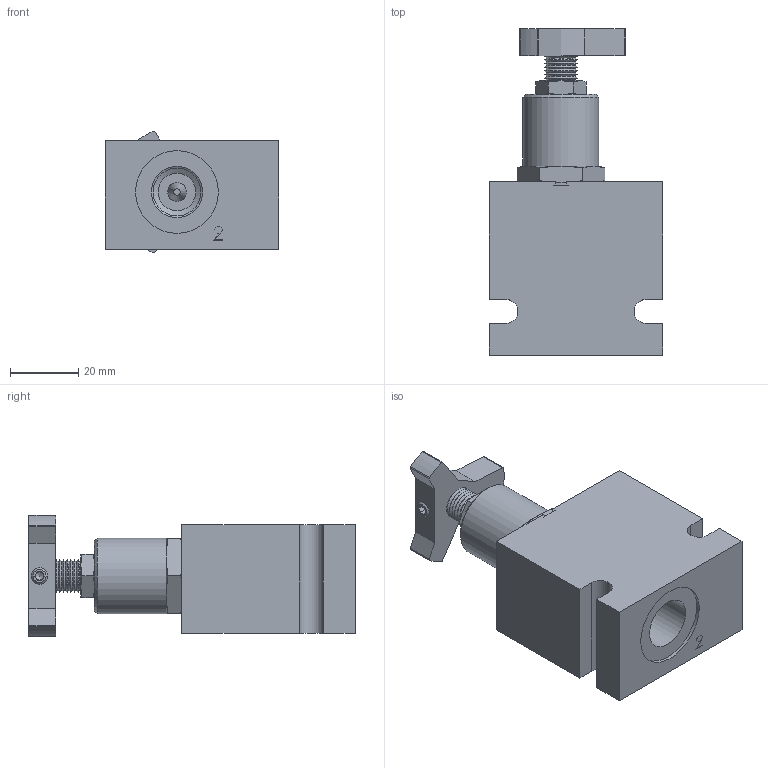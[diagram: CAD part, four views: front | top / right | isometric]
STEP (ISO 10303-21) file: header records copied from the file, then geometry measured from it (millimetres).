
FILE_DESCRIPTION( ( 'Unknown' ), '1' );
FILE_NAME( 'G:/Graphic Design/Graphic Design 2/Data Sheets/FLOW CONTROLS/2_STEP/Flow Restrictors, Adjustable (Needle Valves)/D-PBNVA0K-B2.stp', 'Unknown', ( 'Unknown' ), ( 'Unknown' ), 'PSStep 16.0.42', 'Unknown', ' ' );
FILE_SCHEMA( ( 'AUTOMOTIVE_DESIGN { 1 0 10303 214 1 1 1 1 }' ) );
Length unit declared in the file: millimetre
Products named in the file (12): PBNVA0K; PBNVA0K-3D Full1; PBNVA0K-3D Full2; PBNVA0K-3D Full3; PBNVA0K-3D Full4; PBNVA0K-3D Full5; PBNVA0K-3D Full6; PBNVA0K-3D Full7; Assem1; B-DPBB2; Delta_3_8_nut1
Assembly tree (11 placements, depth 3):
  Assem1
    B-DPBB2
    Delta_3_8_nut1
    PBNVA0K
      PBNVA0K-3D Full1
      PBNVA0K-3D Full2
      PBNVA0K-3D Full3
      PBNVA0K-3D Full4
      PBNVA0K-3D Full5
      PBNVA0K-3D Full6
      PBNVA0K-3D Full7
      PBNVA0K-3D Full7
Bounding box: 50.8 x 95.56 x 35.54 mm (x, y, z)
Surface area: 24494.9 mm2 (no closed solid volume)
Topology: 0 solids, 298 shells, 298 faces, 1262 edges, 1133 vertices
Faces by surface type: plane 131, cone 113, cylinder 52, torus 2
Full cylindrical faces by diameter (mm): 0.2 x2, 1.778 x6, 2.388 x1, 4.775 x1, 5.563 x1, 6.096 x1, 7.861 x1, 7.95 x1, 8.379 x1, 9.525 x1, 9.842 x1, 9.893 x2, 10.5 x1, 11 x1, 12.586 x2, 12.624 x2, 12.7 x1, 13.5 x1, 14 x1, 14.275 x1, 15 x4, 16.751 x1, 17.33 x2, 22.225 x2, 24.2 x2
Entity records: 15543 total; most frequent: CARTESIAN_POINT 4319, DIRECTION 1768, VERTEX_POINT 1081, ORIENTED_EDGE 1077, EDGE_CURVE 1077, AXIS2_PLACEMENT_3D 720, FACE_BOUND 459, EDGE_LOOP 455
